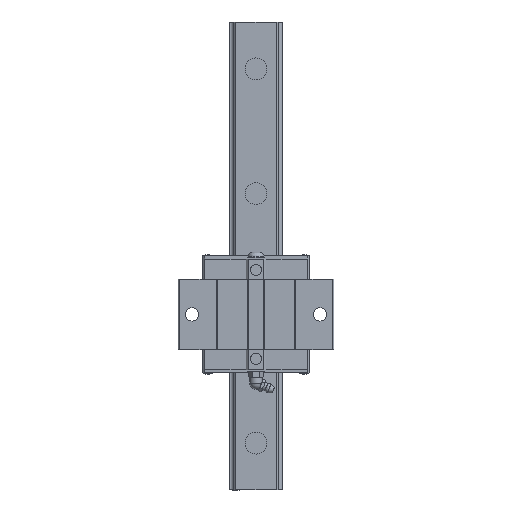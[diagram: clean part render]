
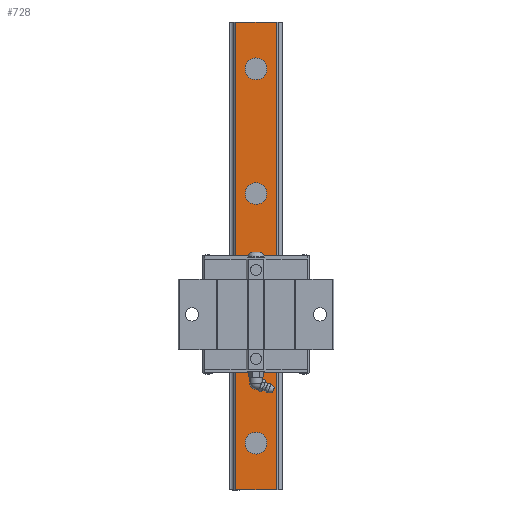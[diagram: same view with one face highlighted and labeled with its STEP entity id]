
A CAD part, top view. The second image highlights one B-rep face of the part: STEP entity #728.
In plain terms, the highlighted planar face has unit normal (0, 0, 1).
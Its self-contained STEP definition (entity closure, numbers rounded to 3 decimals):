
#728=ADVANCED_FACE('',(#1985,#1986,#1987,#1988,#1989),#1990,.T.);
#1985=FACE_BOUND('',#3283,.T.);
#1986=FACE_BOUND('',#3284,.T.);
#1987=FACE_BOUND('',#3285,.T.);
#1988=FACE_BOUND('',#3286,.T.);
#1989=FACE_OUTER_BOUND('',#3287,.T.);
#1990=PLANE('',#3288);
#3283=EDGE_LOOP('',(#8494,#8495));
#3284=EDGE_LOOP('',(#8496,#8497));
#3285=EDGE_LOOP('',(#8498,#8499));
#3286=EDGE_LOOP('',(#8500,#8501));
#3287=EDGE_LOOP('',(#8502,#8503,#8504,#8505));
#3288=AXIS2_PLACEMENT_3D('',#8506,#8507,#8508);
#8494=ORIENTED_EDGE('',*,*,#10103,.T.);
#8495=ORIENTED_EDGE('',*,*,#10395,.T.);
#8496=ORIENTED_EDGE('',*,*,#10095,.T.);
#8497=ORIENTED_EDGE('',*,*,#10398,.T.);
#8498=ORIENTED_EDGE('',*,*,#10087,.T.);
#8499=ORIENTED_EDGE('',*,*,#10401,.T.);
#8500=ORIENTED_EDGE('',*,*,#10079,.T.);
#8501=ORIENTED_EDGE('',*,*,#10404,.T.);
#8502=ORIENTED_EDGE('',*,*,#10375,.T.);
#8503=ORIENTED_EDGE('',*,*,#10428,.F.);
#8504=ORIENTED_EDGE('',*,*,#10269,.T.);
#8505=ORIENTED_EDGE('',*,*,#10427,.T.);
#8506=CARTESIAN_POINT('',(-13.042,300.0,27.5));
#8507=DIRECTION('',(0.0,0.0,1.0));
#8508=DIRECTION('',(-1.0,0.0,0.0));
#10079=EDGE_CURVE('',#12698,#12695,#12699,.T.);
#10087=EDGE_CURVE('',#12714,#12711,#12715,.T.);
#10095=EDGE_CURVE('',#12730,#12727,#12731,.T.);
#10103=EDGE_CURVE('',#12746,#12743,#12747,.T.);
#10269=EDGE_CURVE('',#13028,#13026,#13029,.T.);
#10375=EDGE_CURVE('',#13219,#13217,#13220,.T.);
#10395=EDGE_CURVE('',#12743,#12746,#13258,.T.);
#10398=EDGE_CURVE('',#12727,#12730,#13261,.T.);
#10401=EDGE_CURVE('',#12711,#12714,#13264,.T.);
#10404=EDGE_CURVE('',#12695,#12698,#13267,.T.);
#10427=EDGE_CURVE('',#13026,#13219,#13290,.T.);
#10428=EDGE_CURVE('',#13028,#13217,#13291,.T.);
#12695=VERTEX_POINT('',#18476);
#12698=VERTEX_POINT('',#18480);
#12699=CIRCLE('',#18481,7.0);
#12711=VERTEX_POINT('',#18496);
#12714=VERTEX_POINT('',#18500);
#12715=CIRCLE('',#18501,7.0);
#12727=VERTEX_POINT('',#18516);
#12730=VERTEX_POINT('',#18520);
#12731=CIRCLE('',#18521,7.0);
#12743=VERTEX_POINT('',#18536);
#12746=VERTEX_POINT('',#18540);
#12747=CIRCLE('',#18541,7.0);
#13026=VERTEX_POINT('',#18954);
#13028=VERTEX_POINT('',#18957);
#13029=LINE('',#18958,#18959);
#13217=VERTEX_POINT('',#19233);
#13219=VERTEX_POINT('',#19236);
#13220=LINE('',#19237,#19238);
#13258=CIRCLE('',#19286,7.0);
#13261=CIRCLE('',#19289,7.0);
#13264=CIRCLE('',#19292,7.0);
#13267=CIRCLE('',#19295,7.0);
#13290=LINE('',#19338,#19339);
#13291=LINE('',#19340,#19341);
#18476=CARTESIAN_POINT('',(7.0,30.0,27.5));
#18480=CARTESIAN_POINT('',(-7.0,30.0,27.5));
#18481=AXIS2_PLACEMENT_3D('',#21119,#21120,#21121);
#18496=CARTESIAN_POINT('',(7.0,110.0,27.5));
#18500=CARTESIAN_POINT('',(-7.0,110.0,27.5));
#18501=AXIS2_PLACEMENT_3D('',#21135,#21136,#21137);
#18516=CARTESIAN_POINT('',(7.0,190.0,27.5));
#18520=CARTESIAN_POINT('',(-7.0,190.0,27.5));
#18521=AXIS2_PLACEMENT_3D('',#21151,#21152,#21153);
#18536=CARTESIAN_POINT('',(7.0,270.0,27.5));
#18540=CARTESIAN_POINT('',(-7.0,270.0,27.5));
#18541=AXIS2_PLACEMENT_3D('',#21167,#21168,#21169);
#18954=CARTESIAN_POINT('',(-13.042,300.0,27.5));
#18957=CARTESIAN_POINT('',(13.042,300.0,27.5));
#18958=CARTESIAN_POINT('',(13.042,300.0,27.5));
#18959=VECTOR('',#21395,1.0);
#19233=CARTESIAN_POINT('',(13.042,0.0,27.5));
#19236=CARTESIAN_POINT('',(-13.042,0.0,27.5));
#19237=CARTESIAN_POINT('',(13.042,0.0,27.5));
#19238=VECTOR('',#21537,1.0);
#19286=AXIS2_PLACEMENT_3D('',#21575,#21576,#21577);
#19289=AXIS2_PLACEMENT_3D('',#21584,#21585,#21586);
#19292=AXIS2_PLACEMENT_3D('',#21593,#21594,#21595);
#19295=AXIS2_PLACEMENT_3D('',#21602,#21603,#21604);
#19338=CARTESIAN_POINT('',(-13.042,300.0,27.5));
#19339=VECTOR('',#21631,1.0);
#19340=CARTESIAN_POINT('',(13.042,300.0,27.5));
#19341=VECTOR('',#21632,1.0);
#21119=CARTESIAN_POINT('',(0.0,30.0,27.5));
#21120=DIRECTION('',(0.0,0.0,-1.0));
#21121=DIRECTION('',(1.0,0.0,0.0));
#21135=CARTESIAN_POINT('',(0.0,110.0,27.5));
#21136=DIRECTION('',(0.0,0.0,-1.0));
#21137=DIRECTION('',(1.0,0.0,0.0));
#21151=CARTESIAN_POINT('',(0.0,190.0,27.5));
#21152=DIRECTION('',(0.0,0.0,-1.0));
#21153=DIRECTION('',(1.0,0.0,0.0));
#21167=CARTESIAN_POINT('',(0.0,270.0,27.5));
#21168=DIRECTION('',(0.0,0.0,-1.0));
#21169=DIRECTION('',(1.0,0.0,0.0));
#21395=DIRECTION('',(-1.0,0.0,0.0));
#21537=DIRECTION('',(1.0,0.0,0.0));
#21575=CARTESIAN_POINT('',(0.0,270.0,27.5));
#21576=DIRECTION('',(0.0,0.0,-1.0));
#21577=DIRECTION('',(1.0,0.0,0.0));
#21584=CARTESIAN_POINT('',(0.0,190.0,27.5));
#21585=DIRECTION('',(0.0,0.0,-1.0));
#21586=DIRECTION('',(1.0,0.0,0.0));
#21593=CARTESIAN_POINT('',(0.0,110.0,27.5));
#21594=DIRECTION('',(0.0,0.0,-1.0));
#21595=DIRECTION('',(1.0,0.0,0.0));
#21602=CARTESIAN_POINT('',(0.0,30.0,27.5));
#21603=DIRECTION('',(0.0,0.0,-1.0));
#21604=DIRECTION('',(1.0,0.0,0.0));
#21631=DIRECTION('',(0.0,-1.0,0.0));
#21632=DIRECTION('',(0.0,-1.0,0.0));
